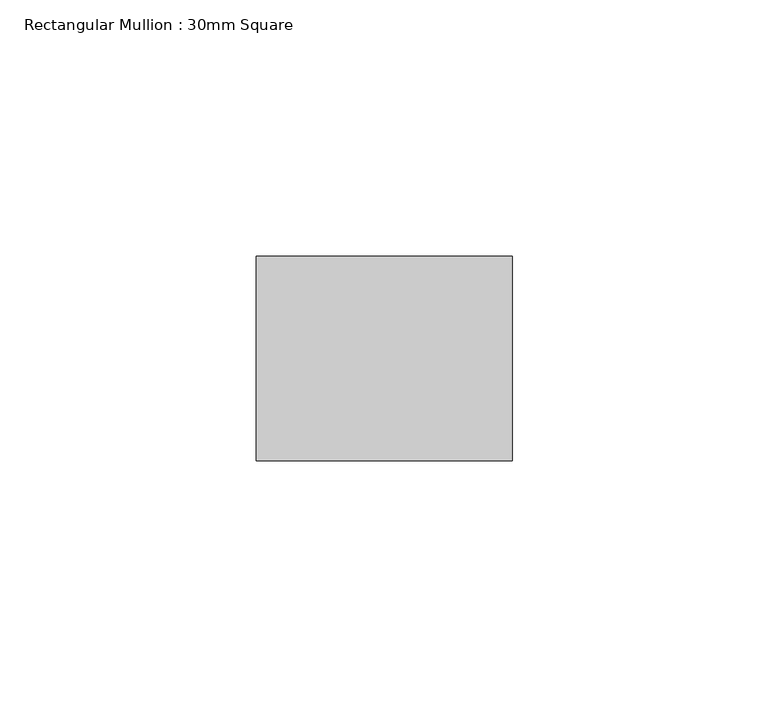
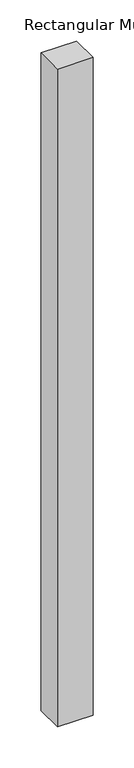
"""IFC4 building model written with IfcOpenShell, lengths in millimetres: member geometry, Rectangular Mullion : 30mm Square."""

from ifc_helpers import new_model, si_unit, frame, origin, place, context, project, spatial, polyline, outline, extrude, source, transform, mapped, element, save


def rectangular_mullion_30mm_square_4687e423(model_context):
    return source(origin(), model_context, "Body", "SweptSolid", [
        extrude(outline(polyline([(25.0, 20.0), (25.0, -20.0), (-25.0, -20.0), (-25.0, 20.0), (25.0, 20.0)])), frame((0.0, 0.0, -977.5), z_axis=(0.0, 0.0, 1.0), x_axis=(1.0, 0.0, 0.0)), (0.0, 0.0, 1.0), 977.5),
    ])


if __name__ == "__main__":
    model = new_model("IFC4")
    model_context = context("Model", 3, world=origin())
    ifc_project = project(units=[si_unit("LENGTHUNIT", "METRE", prefix="MILLI")], contexts=[model_context])
    site = spatial("IfcSite", under=ifc_project)
    building = spatial("IfcBuilding", under=site)
    placement = place(None, origin())
    rectangular_mullion_30mm_square_shape = rectangular_mullion_30mm_square_4687e423(model_context)
    element("IfcMember", 1, ObjectType="Rectangular Mullion : 30mm Square", at=placement, inside=building, context=model_context, shape_type="MappedRepresentation", body=[
        mapped(rectangular_mullion_30mm_square_shape, transform((0.0, 0.0, 0.0), x_axis=(1.0, 0.0, 0.0), y_axis=(0.0, 1.0, 0.0), z_axis=(0.0, 0.0, 1.0))),
    ])
    save(model, "model.ifc")
